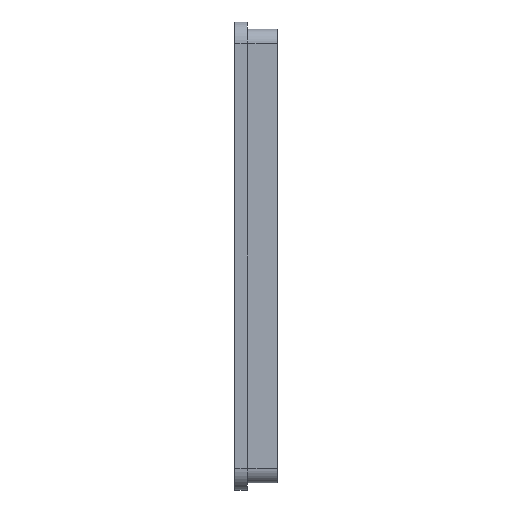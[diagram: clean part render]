
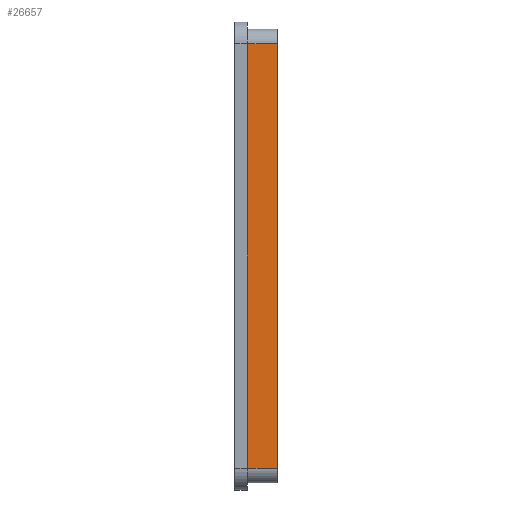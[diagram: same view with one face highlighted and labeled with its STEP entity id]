
A CAD part, left-side view. The second image highlights one B-rep face of the part: STEP entity #26657.
In plain terms, the highlighted planar face has unit normal (-1, 0, 0).
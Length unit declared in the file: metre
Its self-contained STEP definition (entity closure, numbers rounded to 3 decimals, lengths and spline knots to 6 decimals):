
#2082=ORIENTED_EDGE('',*,*,#10279,.T.);
#2083=ORIENTED_EDGE('',*,*,#10280,.T.);
#2084=ORIENTED_EDGE('',*,*,#10275,.F.);
#2085=ORIENTED_EDGE('',*,*,#10281,.F.);
#10275=EDGE_CURVE('',#14373,#14374,#17105,.T.);
#10279=EDGE_CURVE('',#14376,#14377,#17107,.T.);
#10280=EDGE_CURVE('',#14377,#14374,#17108,.T.);
#10281=EDGE_CURVE('',#14376,#14373,#17109,.T.);
#14373=VERTEX_POINT('',#39006);
#14374=VERTEX_POINT('',#39007);
#14376=VERTEX_POINT('',#39014);
#14377=VERTEX_POINT('',#39015);
#17105=LINE('',#39005,#19837);
#17107=LINE('',#39013,#19839);
#17108=LINE('',#39016,#19840);
#17109=LINE('',#39017,#19841);
#19837=VECTOR('',#30795,1.);
#19839=VECTOR('',#30803,1.);
#19840=VECTOR('',#30804,1.);
#19841=VECTOR('',#30805,1.);
#22564=EDGE_LOOP('',(#2082,#2083,#2084,#2085));
#24268=FACE_BOUND('',#22564,.T.);
#25970=PLANE('',#28043);
#26657=ADVANCED_FACE('',(#24268),#25970,.F.);
#28043=AXIS2_PLACEMENT_3D('',#39012,#30801,#30802);
#30795=DIRECTION('',(0.,1.,0.));
#30801=DIRECTION('',(1.,0.,0.));
#30802=DIRECTION('',(0.,-1.,0.));
#30803=DIRECTION('',(0.,1.,0.));
#30804=DIRECTION('',(0.,0.,-1.));
#30805=DIRECTION('',(0.,0.,-1.));
#39005=CARTESIAN_POINT('',(0.03681,0.003105,0.04084));
#39006=CARTESIAN_POINT('',(0.03681,0.003105,0.04084));
#39007=CARTESIAN_POINT('',(0.03681,0.010805,0.04084));
#39012=CARTESIAN_POINT('',(0.03681,0.003105,0.079197));
#39013=CARTESIAN_POINT('',(0.03681,0.003105,0.117555));
#39014=CARTESIAN_POINT('',(0.03681,0.003105,0.117555));
#39015=CARTESIAN_POINT('',(0.03681,0.010805,0.117555));
#39016=CARTESIAN_POINT('',(0.03681,0.010805,0.079197));
#39017=CARTESIAN_POINT('',(0.03681,0.003105,0.079197));
